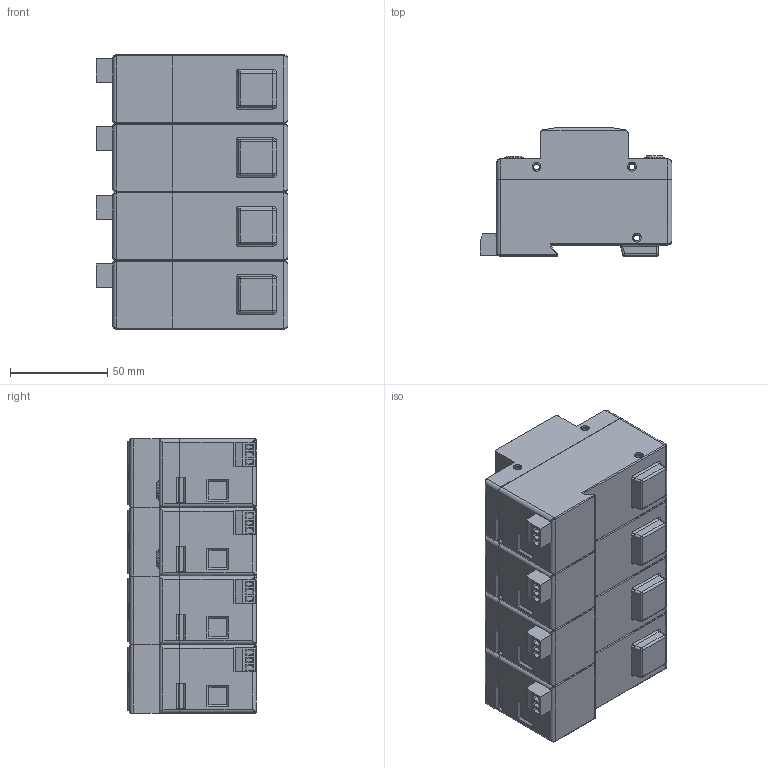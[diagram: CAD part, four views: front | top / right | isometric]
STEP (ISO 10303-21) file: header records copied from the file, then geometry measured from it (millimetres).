
FILE_DESCRIPTION(/* description */ (''),/* implementation_level */ '2;1');
FILE_NAME(/* name */ 'K:\PROJEKTY ROZPRACOVANÉ\MODELY DO KATALOGU\HLSA25, HLSA25G, HLA\3D - STEP\H25 4+0 S.stp',/* time_stamp */ '2020-03-24T07:17:34+01:00',/* author */ ('M Koliska'),/* organization */ (''),/* preprocessor_version */ 'ST-DEVELOPER v18',/* originating_system */ 'Autodesk Inventor 2020',/* authorisation */ '');
FILE_SCHEMA (('AUTOMOTIVE_DESIGN { 1 0 10303 214 3 1 1 }'));
Length unit declared in the file: millimetre
Products named in the file (12): HLSA25_4+0 S; HLSA25 S; HLSA25 S_1; HLSA25 S (Z); HLSA25 S (Z)_1; HLSA25 S (N2); HLSA25 S (N2)_1; DIN 7985 (H) - M6x10-H; KONEKTOR DEGSON 15EDGK 3.81; KONEKTOR SAMEC; ISO 2009 - M1,6 x 2,5; KONEKTOR DEGSON 15EDGRC 3.81
Assembly tree (23 placements, depth 4):
  HLSA25_4+0 S
    HLSA25 S  x2
      HLSA25 S_1
      DIN 7985 (H) - M6x10-H
      KONEKTOR DEGSON 15EDGK 3.81
        KONEKTOR SAMEC
        ISO 2009 - M1,6 x 2,5  x3
      KONEKTOR DEGSON 15EDGRC 3.81
    HLSA25 S (Z)
      HLSA25 S (Z)_1
      DIN 7985 (H) - M6x10-H  x2
      KONEKTOR DEGSON 15EDGK 3.81
        KONEKTOR SAMEC
        ISO 2009 - M1,6 x 2,5  x3
      KONEKTOR DEGSON 15EDGRC 3.81
    HLSA25 S (N2)
      HLSA25 S (N2)_1
      DIN 7985 (H) - M6x10-H
      KONEKTOR DEGSON 15EDGK 3.81
        KONEKTOR SAMEC
        ISO 2009 - M1,6 x 2,5  x3
      KONEKTOR DEGSON 15EDGRC 3.81
Bounding box: 98.5 x 65.8 x 140.8 mm (x, y, z)
Volume: 686284.4 mm3; surface area: 107311.6 mm2
Topology: 33 solids, 33 shells, 2166 faces, 5475 edges, 3568 vertices
Faces by surface type: plane 1503, cylinder 370, cone 195, torus 41, sphere 33, bspline 24
Full cylindrical faces by diameter (mm): 0.968 x12, 1 x24, 1.171 x12, 1.6 x12, 1.9 x12, 2 x12, 2.5 x12, 3.2 x12, 4.5 x24, 5.5 x9, 6 x9, 7.5 x9, 10 x3
Entity records: 27433 total; most frequent: CARTESIAN_POINT 5200, DIRECTION 4519, ORIENTED_EDGE 4462, EDGE_CURVE 2231, LINE 1709, VECTOR 1709, VERTEX_POINT 1436, AXIS2_PLACEMENT_3D 1405
